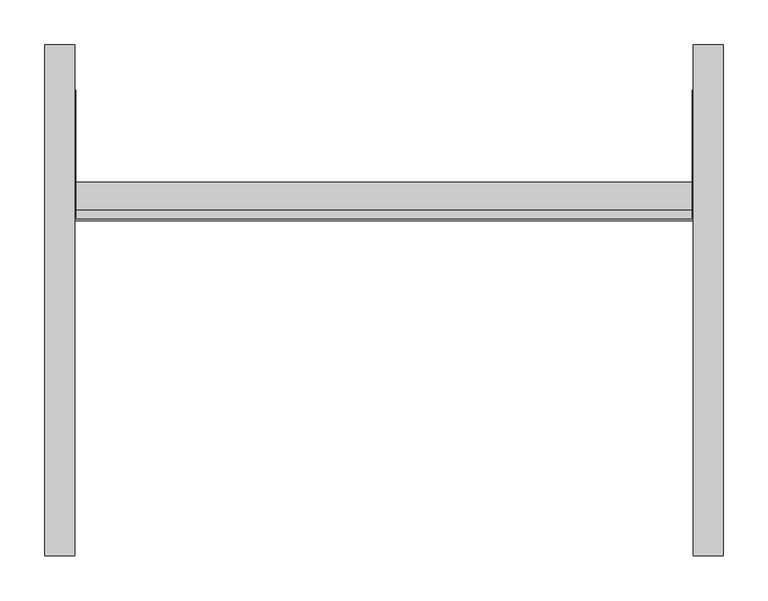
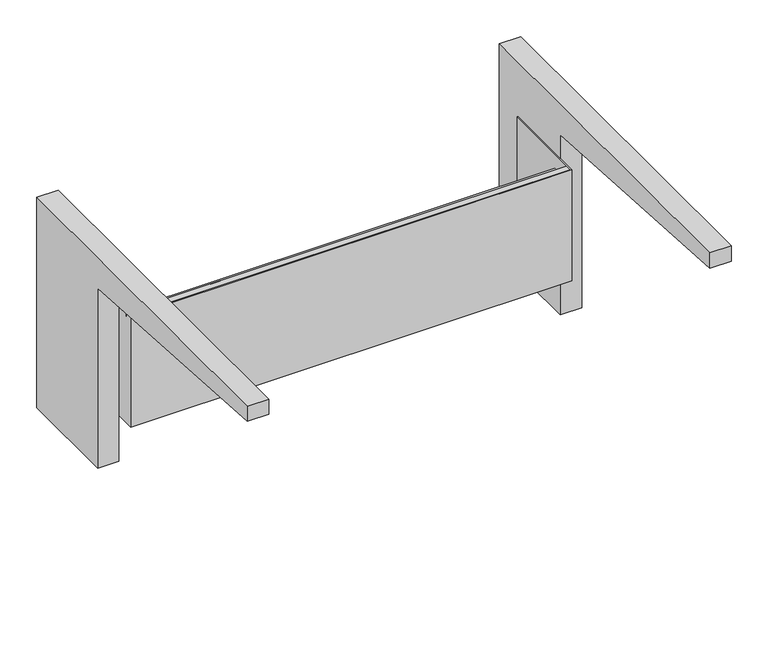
"""IFC4 building model written with IfcOpenShell, lengths in millimetres: furniture geometry."""

from ifc_helpers import new_model, si_unit, point, frame, frame_2d, origin, place, context, project, spatial, polyline, circle_curve, trimmed, segment, composite_curve, outline, extrude, source, transform, mapped, element, save


def furniture_f997a199(model_context):
    return source(origin(), model_context, "Body", "SweptSolid", [
        extrude(outline(composite_curve([segment(polyline([(177.8, 882.65), (177.8, 533.4), (12.7, 533.4), (12.7, 831.85)]), True, "CONTINUOUS"), segment(trimmed(circle_curve(frame_2d((-388.143904, -2317.7524637)), 3175.0073252), [point((12.7, 831.85))], [point((-393.7, 857.25))], True, "CARTESIAN"), True, "CONTINUOUS"), segment(polyline([(-393.7, 857.25), (-393.7, 882.65), (177.8, 882.65)]), True, "CONTINUOUS")], self_intersect=False)), frame((346.075, 0.0, 0.0), z_axis=(1.0, 0.0, 0.0), x_axis=(0.0, 1.0, 0.0)), (0.0, 0.0, 1.0), 33.3375),
        extrude(outline(composite_curve([segment(polyline([(-393.7, 857.25), (-393.7, 882.65), (177.8, 882.65), (177.8, 533.4), (12.7, 533.4), (12.7, 831.85)]), True, "CONTINUOUS"), segment(trimmed(circle_curve(frame_2d((-388.143904, -2317.7524637)), 3175.0073252), [point((12.7, 831.85))], [point((-393.7, 857.25))], True, "CARTESIAN"), True, "CONTINUOUS")], self_intersect=False)), frame((-379.4125, 0.0, 0.0), z_axis=(1.0, 0.0, 0.0), x_axis=(0.0, 1.0, 0.0)), (0.0, 0.0, 1.0), 33.3375),
        extrude(outline(polyline([(-344.4875, -17.4625), (344.4875, -17.4625), (344.4875, 127.0), (346.075, 127.0), (346.075, -19.05), (-346.075, -19.05), (-346.075, 127.0), (-344.4875, 127.0), (-344.4875, -17.4625)])), frame((0.0, 0.0, 608.9396), z_axis=(0.0, 0.0, 1.0), x_axis=(1.0, 0.0, 0.0)), (0.0, 0.0, 1.0), 184.15),
        extrude(outline(polyline([(-7.9057553, 792.29585), (-17.4625, 792.29585), (-17.4625, 770.07085), (24.1300012, 770.07085), (24.1300012, 608.9396), (-19.05, 608.9396), (-19.05, 793.0896), (-7.1120053, 793.0896), (-7.1120053, 786.0791994), (-7.9057553, 786.0791994), (-7.9057553, 792.29585)])), frame((-346.075, 0.0, 0.0), z_axis=(1.0, 0.0, 0.0), x_axis=(0.0, 1.0, 0.0)), (0.0, 0.0, 1.0), 692.15),
    ])


if __name__ == "__main__":
    model = new_model("IFC4")
    model_context = context("Model", 3, world=origin())
    ifc_project = project(units=[si_unit("LENGTHUNIT", "METRE", prefix="MILLI")], contexts=[model_context])
    site = spatial("IfcSite", under=ifc_project)
    building = spatial("IfcBuilding", under=site)
    placement = place(None, origin())
    furniture_shape = furniture_f997a199(model_context)
    element("IfcFurniture", 1, ObjectType="HermanMiller_CoStruc_C2140W_WorkSurfaceSupport_ComponentAdaptor : 14\"H x 24\"D x 30\"W", at=placement, inside=building, context=model_context, shape_type="MappedRepresentation", body=[
        mapped(furniture_shape, transform((0.0, 0.0, 0.0), x_axis=(1.0, 0.0, 0.0), y_axis=(0.0, 1.0, 0.0), z_axis=(0.0, 0.0, 1.0))),
    ])
    save(model, "model.ifc")
